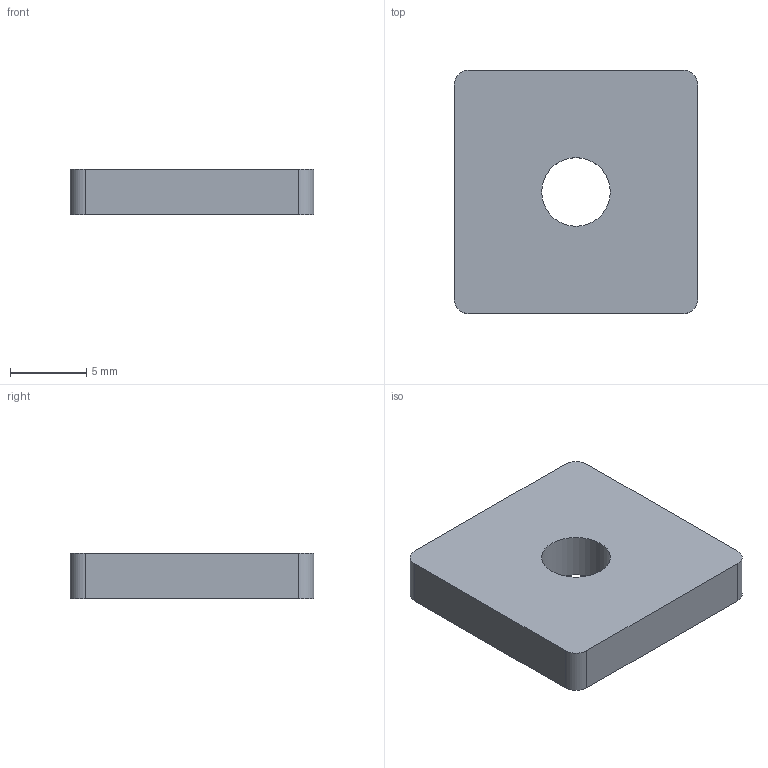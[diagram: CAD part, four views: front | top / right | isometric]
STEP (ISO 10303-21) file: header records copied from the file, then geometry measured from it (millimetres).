
FILE_DESCRIPTION(('FreeCAD Model'),'2;1');
FILE_NAME('Open CASCADE Shape Model','2026-10-30T14:44:39',('FreeCAD'),( 'FreeCAD'),'Open CASCADE STEP processor 7.8','FreeCAD','Unknown');
FILE_SCHEMA(('AUTOMOTIVE_DESIGN { 1 0 10303 214 1 1 1 1 }'));
Length unit declared in the file: millimetre
Products named in the file (1): Open CASCADE STEP translator 7.8 9
Bounding box: 16 x 16 x 3 mm (x, y, z)
Volume: 717.7 mm3; surface area: 707.7 mm2
Topology: 1 solids, 1 shells, 11 faces, 27 edges, 18 vertices
Faces by surface type: plane 6, cylinder 5
Full cylindrical faces by diameter (mm): 4.5 x1
Entity records: 345 total; most frequent: DIRECTION 61, CARTESIAN_POINT 57, ORIENTED_EDGE 54, EDGE_CURVE 27, AXIS2_PLACEMENT_3D 22, VERTEX_POINT 18, LINE 17, VECTOR 17
